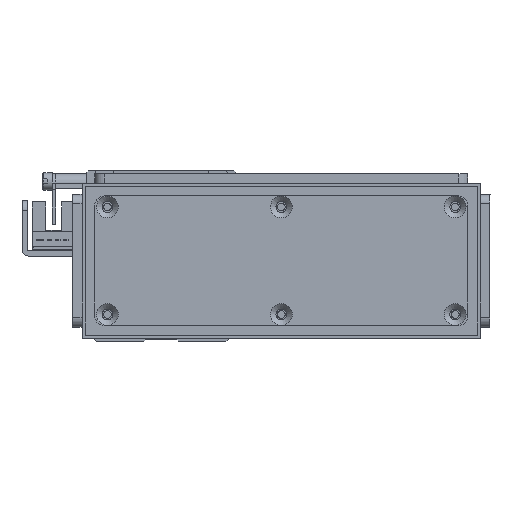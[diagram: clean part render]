
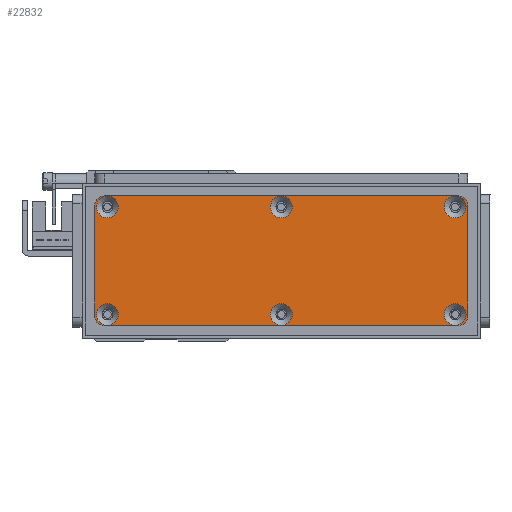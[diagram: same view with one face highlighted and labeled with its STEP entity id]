
A CAD part, front view. The second image highlights one B-rep face of the part: STEP entity #22832.
In plain terms, the highlighted planar face has unit normal (0, -1, 0) as drawn and (0, 0, 1) by its records, which use the part's own axes.
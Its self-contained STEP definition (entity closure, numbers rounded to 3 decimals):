
#778=FACE_BOUND('',#3885,.T.);
#779=FACE_BOUND('',#3886,.T.);
#780=FACE_BOUND('',#3887,.T.);
#781=FACE_BOUND('',#3888,.T.);
#782=FACE_BOUND('',#3889,.T.);
#783=FACE_BOUND('',#3890,.T.);
#1383=PLANE('',#25273);
#2408=FACE_OUTER_BOUND('',#3884,.T.);
#3884=EDGE_LOOP('',(#19370,#19371,#19372,#19373,#19374,#19375,#19376,#19377));
#3885=EDGE_LOOP('',(#19378));
#3886=EDGE_LOOP('',(#19379));
#3887=EDGE_LOOP('',(#19380));
#3888=EDGE_LOOP('',(#19381));
#3889=EDGE_LOOP('',(#19382));
#3890=EDGE_LOOP('',(#19383));
#5876=LINE('',#38329,#8019);
#5880=LINE('',#38341,#8023);
#5884=LINE('',#38353,#8027);
#5888=LINE('',#38363,#8031);
#8019=VECTOR('',#30433,10.);
#8023=VECTOR('',#30445,10.);
#8027=VECTOR('',#30457,10.);
#8031=VECTOR('',#30469,10.);
#9341=CIRCLE('',#25227,3.45);
#9344=CIRCLE('',#25232,3.45);
#9347=CIRCLE('',#25237,3.45);
#9350=CIRCLE('',#25242,3.45);
#9353=CIRCLE('',#25247,3.45);
#9356=CIRCLE('',#25252,3.45);
#9360=CIRCLE('',#25258,3.);
#9362=CIRCLE('',#25262,3.);
#9364=CIRCLE('',#25266,3.);
#9366=CIRCLE('',#25270,3.);
#11120=VERTEX_POINT('',#38257);
#11123=VERTEX_POINT('',#38267);
#11126=VERTEX_POINT('',#38277);
#11129=VERTEX_POINT('',#38287);
#11132=VERTEX_POINT('',#38297);
#11135=VERTEX_POINT('',#38307);
#11140=VERTEX_POINT('',#38320);
#11141=VERTEX_POINT('',#38322);
#11143=VERTEX_POINT('',#38328);
#11145=VERTEX_POINT('',#38334);
#11147=VERTEX_POINT('',#38340);
#11149=VERTEX_POINT('',#38346);
#11151=VERTEX_POINT('',#38352);
#11153=VERTEX_POINT('',#38358);
#13963=EDGE_CURVE('',#11120,#11120,#9341,.T.);
#13968=EDGE_CURVE('',#11123,#11123,#9344,.T.);
#13973=EDGE_CURVE('',#11126,#11126,#9347,.T.);
#13978=EDGE_CURVE('',#11129,#11129,#9350,.T.);
#13983=EDGE_CURVE('',#11132,#11132,#9353,.T.);
#13988=EDGE_CURVE('',#11135,#11135,#9356,.T.);
#13995=EDGE_CURVE('',#11141,#11140,#9360,.T.);
#13998=EDGE_CURVE('',#11143,#11141,#5876,.T.);
#14001=EDGE_CURVE('',#11145,#11143,#9362,.T.);
#14004=EDGE_CURVE('',#11147,#11145,#5880,.T.);
#14007=EDGE_CURVE('',#11149,#11147,#9364,.T.);
#14010=EDGE_CURVE('',#11151,#11149,#5884,.T.);
#14013=EDGE_CURVE('',#11153,#11151,#9366,.T.);
#14016=EDGE_CURVE('',#11140,#11153,#5888,.T.);
#19370=ORIENTED_EDGE('',*,*,#14016,.T.);
#19371=ORIENTED_EDGE('',*,*,#14013,.T.);
#19372=ORIENTED_EDGE('',*,*,#14010,.T.);
#19373=ORIENTED_EDGE('',*,*,#14007,.T.);
#19374=ORIENTED_EDGE('',*,*,#14004,.T.);
#19375=ORIENTED_EDGE('',*,*,#14001,.T.);
#19376=ORIENTED_EDGE('',*,*,#13998,.T.);
#19377=ORIENTED_EDGE('',*,*,#13995,.T.);
#19378=ORIENTED_EDGE('',*,*,#13963,.T.);
#19379=ORIENTED_EDGE('',*,*,#13968,.T.);
#19380=ORIENTED_EDGE('',*,*,#13973,.T.);
#19381=ORIENTED_EDGE('',*,*,#13978,.T.);
#19382=ORIENTED_EDGE('',*,*,#13983,.T.);
#19383=ORIENTED_EDGE('',*,*,#13988,.T.);
#22832=ADVANCED_FACE('',(#2408,#778,#779,#780,#781,#782,#783),#1383,.T.);
#25227=AXIS2_PLACEMENT_3D('',#38258,#30352,#30353);
#25232=AXIS2_PLACEMENT_3D('',#38268,#30364,#30365);
#25237=AXIS2_PLACEMENT_3D('',#38278,#30376,#30377);
#25242=AXIS2_PLACEMENT_3D('',#38288,#30388,#30389);
#25247=AXIS2_PLACEMENT_3D('',#38298,#30400,#30401);
#25252=AXIS2_PLACEMENT_3D('',#38308,#30412,#30413);
#25258=AXIS2_PLACEMENT_3D('',#38323,#30427,#30428);
#25262=AXIS2_PLACEMENT_3D('',#38335,#30439,#30440);
#25266=AXIS2_PLACEMENT_3D('',#38347,#30451,#30452);
#25270=AXIS2_PLACEMENT_3D('',#38359,#30463,#30464);
#25273=AXIS2_PLACEMENT_3D('',#38365,#30472,#30473);
#30352=DIRECTION('center_axis',(0.,0.,-1.));
#30353=DIRECTION('ref_axis',(1.,0.,0.));
#30364=DIRECTION('center_axis',(0.,0.,-1.));
#30365=DIRECTION('ref_axis',(1.,0.,0.));
#30376=DIRECTION('center_axis',(0.,0.,-1.));
#30377=DIRECTION('ref_axis',(1.,0.,0.));
#30388=DIRECTION('center_axis',(0.,0.,-1.));
#30389=DIRECTION('ref_axis',(1.,0.,0.));
#30400=DIRECTION('center_axis',(0.,0.,-1.));
#30401=DIRECTION('ref_axis',(1.,0.,0.));
#30412=DIRECTION('center_axis',(0.,0.,-1.));
#30413=DIRECTION('ref_axis',(1.,0.,0.));
#30427=DIRECTION('center_axis',(0.,0.,1.));
#30428=DIRECTION('ref_axis',(-1.,0.,0.));
#30433=DIRECTION('',(0.,1.,0.));
#30439=DIRECTION('center_axis',(0.,0.,1.));
#30440=DIRECTION('ref_axis',(0.,1.,0.));
#30445=DIRECTION('',(1.,0.,0.));
#30451=DIRECTION('center_axis',(0.,0.,1.));
#30452=DIRECTION('ref_axis',(1.,0.,0.));
#30457=DIRECTION('',(0.,-1.,0.));
#30463=DIRECTION('center_axis',(0.,0.,1.));
#30464=DIRECTION('ref_axis',(0.,-1.,0.));
#30469=DIRECTION('',(-1.,0.,0.));
#30472=DIRECTION('center_axis',(0.,0.,1.));
#30473=DIRECTION('ref_axis',(1.,0.,0.));
#38257=CARTESIAN_POINT('',(110.55,3.5,3.));
#38258=CARTESIAN_POINT('Origin',(114.,3.5,3.));
#38267=CARTESIAN_POINT('',(55.55,37.5,3.));
#38268=CARTESIAN_POINT('Origin',(59.,37.5,3.));
#38277=CARTESIAN_POINT('',(55.55,3.5,3.));
#38278=CARTESIAN_POINT('Origin',(59.,3.5,3.));
#38287=CARTESIAN_POINT('',(0.55,37.5,3.));
#38288=CARTESIAN_POINT('Origin',(4.,37.5,3.));
#38297=CARTESIAN_POINT('',(110.55,37.5,3.));
#38298=CARTESIAN_POINT('Origin',(114.,37.5,3.));
#38307=CARTESIAN_POINT('',(0.55,3.5,3.));
#38308=CARTESIAN_POINT('Origin',(4.,3.5,3.));
#38320=CARTESIAN_POINT('',(115.,41.,3.));
#38322=CARTESIAN_POINT('',(118.,38.,3.));
#38323=CARTESIAN_POINT('Origin',(115.,38.,3.));
#38328=CARTESIAN_POINT('',(118.,3.,3.));
#38329=CARTESIAN_POINT('',(118.,38.,3.));
#38334=CARTESIAN_POINT('',(115.,0.,3.));
#38335=CARTESIAN_POINT('Origin',(115.,3.,3.));
#38340=CARTESIAN_POINT('',(3.,0.,3.));
#38341=CARTESIAN_POINT('',(115.,0.,3.));
#38346=CARTESIAN_POINT('',(0.,3.,3.));
#38347=CARTESIAN_POINT('Origin',(3.,3.,3.));
#38352=CARTESIAN_POINT('',(0.,38.,3.));
#38353=CARTESIAN_POINT('',(0.,3.,3.));
#38358=CARTESIAN_POINT('',(3.,41.,3.));
#38359=CARTESIAN_POINT('Origin',(3.,38.,3.));
#38363=CARTESIAN_POINT('',(3.,41.,3.));
#38365=CARTESIAN_POINT('Origin',(59.,20.5,3.));
